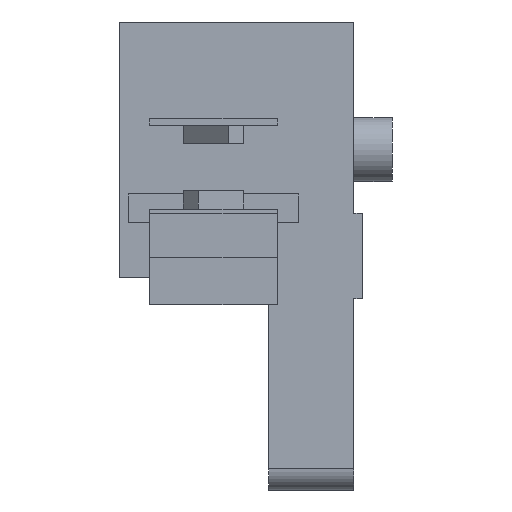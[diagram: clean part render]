
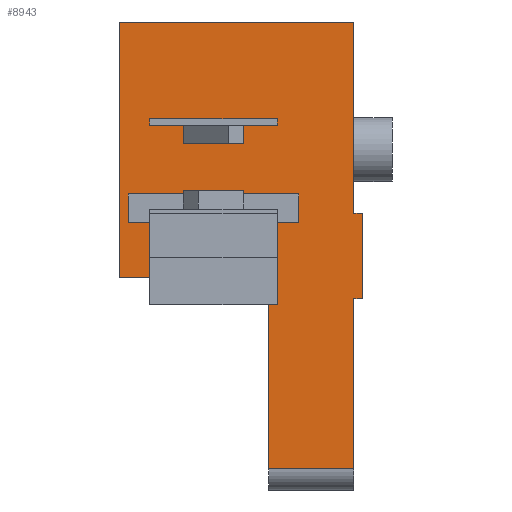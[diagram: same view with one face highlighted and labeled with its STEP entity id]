
A CAD part, left-side view. The second image highlights one B-rep face of the part: STEP entity #8943.
In plain terms, the highlighted planar face has unit normal (-1, 0, 0).
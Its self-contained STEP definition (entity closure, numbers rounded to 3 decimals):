
#21 = EDGE_CURVE ( 'NONE', #585, #7404, #12248, .T. ) ;
#195 = EDGE_CURVE ( 'NONE', #7404, #1716, #13042, .T. ) ;
#262 = DIRECTION ( 'NONE',  ( 0., 0., 1. ) ) ;
#280 = DIRECTION ( 'NONE',  ( 0., 1., 0. ) ) ;
#430 = CARTESIAN_POINT ( 'NONE',  ( -2.5, 2.2, 3.4 ) ) ;
#472 = EDGE_CURVE ( 'NONE', #585, #3745, #13751, .T. ) ;
#509 = LINE ( 'NONE', #430, #7930 ) ;
#585 = VERTEX_POINT ( 'NONE', #6290 ) ;
#710 = CARTESIAN_POINT ( 'NONE',  ( -2.5, -3.3, -7.6 ) ) ;
#1196 = LINE ( 'NONE', #5633, #10365 ) ;
#1448 = CARTESIAN_POINT ( 'NONE',  ( -2.5, 2.2, -7.1 ) ) ;
#1547 = EDGE_CURVE ( 'NONE', #6220, #1716, #5970, .T. ) ;
#1572 = VECTOR ( 'NONE', #280, 1000. ) ;
#1595 = CARTESIAN_POINT ( 'NONE',  ( -2.5, -3.3, -1.1 ) ) ;
#1680 = DIRECTION ( 'NONE',  ( 0., -1., 0. ) ) ;
#1716 = VERTEX_POINT ( 'NONE', #9873 ) ;
#2010 = CARTESIAN_POINT ( 'NONE',  ( -2.5, -1.3, -2.6 ) ) ;
#2230 = VERTEX_POINT ( 'NONE', #5360 ) ;
#2409 = ORIENTED_EDGE ( 'NONE', *, *, #21, .T. ) ;
#2647 = ORIENTED_EDGE ( 'NONE', *, *, #195, .T. ) ;
#2773 = VERTEX_POINT ( 'NONE', #13163 ) ;
#2930 = CARTESIAN_POINT ( 'NONE',  ( -2.5, -3.3, -7.1 ) ) ;
#3745 = VERTEX_POINT ( 'NONE', #2010 ) ;
#3806 = ORIENTED_EDGE ( 'NONE', *, *, #8936, .T. ) ;
#3860 = ORIENTED_EDGE ( 'NONE', *, *, #12158, .T. ) ;
#3968 = ORIENTED_EDGE ( 'NONE', *, *, #9512, .F. ) ;
#4563 = FACE_OUTER_BOUND ( 'NONE', #12487, .T. ) ;
#4717 = EDGE_CURVE ( 'NONE', #3745, #2230, #1196, .T. ) ;
#5360 = CARTESIAN_POINT ( 'NONE',  ( -2.5, 2.2, -2.6 ) ) ;
#5633 = CARTESIAN_POINT ( 'NONE',  ( -2.5, 2.2, -2.6 ) ) ;
#5747 = DIRECTION ( 'NONE',  ( 1., 0., 0. ) ) ;
#5749 = CARTESIAN_POINT ( 'NONE',  ( -2.5, 2.2, 3.4 ) ) ;
#5851 = DIRECTION ( 'NONE',  ( 0., 0., 1. ) ) ;
#5970 = LINE ( 'NONE', #10479, #11524 ) ;
#6008 = VERTEX_POINT ( 'NONE', #1595 ) ;
#6181 = DIRECTION ( 'NONE',  ( 0., 0., 1. ) ) ;
#6220 = VERTEX_POINT ( 'NONE', #8662 ) ;
#6290 = CARTESIAN_POINT ( 'NONE',  ( -2.5, -1.3, -7.1 ) ) ;
#6615 = VECTOR ( 'NONE', #8180, 1000. ) ;
#6914 = ORIENTED_EDGE ( 'NONE', *, *, #472, .F. ) ;
#6940 = CARTESIAN_POINT ( 'NONE',  ( -2.5, -3.5, -1.1 ) ) ;
#7252 = DIRECTION ( 'NONE',  ( 0., 0., 1. ) ) ;
#7404 = VERTEX_POINT ( 'NONE', #2930 ) ;
#7461 = VECTOR ( 'NONE', #262, 1000. ) ;
#7527 = ORIENTED_EDGE ( 'NONE', *, *, #1547, .F. ) ;
#7930 = VECTOR ( 'NONE', #1680, 1000. ) ;
#7966 = LINE ( 'NONE', #6940, #1572 ) ;
#8009 = DIRECTION ( 'NONE',  ( 0., 0., -1. ) ) ;
#8024 = CARTESIAN_POINT ( 'NONE',  ( -2.5, 2.2, -7.6 ) ) ;
#8076 = CARTESIAN_POINT ( 'NONE',  ( -2.5, -1.3, -7.6 ) ) ;
#8085 = LINE ( 'NONE', #9118, #8893 ) ;
#8180 = DIRECTION ( 'NONE',  ( 0., -1., 0. ) ) ;
#8315 = VECTOR ( 'NONE', #7252, 1000. ) ;
#8409 = AXIS2_PLACEMENT_3D ( 'NONE', #10336, #5747, #9303 ) ;
#8416 = DIRECTION ( 'NONE',  ( 0., 1., 0. ) ) ;
#8662 = CARTESIAN_POINT ( 'NONE',  ( -2.5, -3.5, -3.1 ) ) ;
#8680 = ORIENTED_EDGE ( 'NONE', *, *, #11401, .F. ) ;
#8893 = VECTOR ( 'NONE', #8009, 1000. ) ;
#8936 = EDGE_CURVE ( 'NONE', #10230, #6008, #7966, .T. ) ;
#8943 = ADVANCED_FACE ( 'NONE', ( #4563 ), #10476, .F. ) ;
#8980 = VECTOR ( 'NONE', #6181, 1000. ) ;
#9118 = CARTESIAN_POINT ( 'NONE',  ( -2.5, -3.5, -3.1 ) ) ;
#9303 = DIRECTION ( 'NONE',  ( 0., 0., -1. ) ) ;
#9512 = EDGE_CURVE ( 'NONE', #10230, #6220, #8085, .T. ) ;
#9873 = CARTESIAN_POINT ( 'NONE',  ( -2.5, -3.3, -3.1 ) ) ;
#9885 = VERTEX_POINT ( 'NONE', #5749 ) ;
#10230 = VERTEX_POINT ( 'NONE', #12776 ) ;
#10336 = CARTESIAN_POINT ( 'NONE',  ( -2.5, 2.2, -7.6 ) ) ;
#10365 = VECTOR ( 'NONE', #11391, 1000. ) ;
#10390 = LINE ( 'NONE', #8024, #7461 ) ;
#10476 = PLANE ( 'NONE',  #8409 ) ;
#10479 = CARTESIAN_POINT ( 'NONE',  ( -2.5, -3.5, -3.1 ) ) ;
#10910 = ORIENTED_EDGE ( 'NONE', *, *, #4717, .F. ) ;
#11187 = EDGE_CURVE ( 'NONE', #9885, #2773, #509, .T. ) ;
#11391 = DIRECTION ( 'NONE',  ( 0., 1., 0. ) ) ;
#11401 = EDGE_CURVE ( 'NONE', #2230, #9885, #10390, .T. ) ;
#11524 = VECTOR ( 'NONE', #8416, 1000. ) ;
#11656 = CARTESIAN_POINT ( 'NONE',  ( -2.5, -3.3, -7.6 ) ) ;
#12158 = EDGE_CURVE ( 'NONE', #6008, #2773, #13881, .T. ) ;
#12248 = LINE ( 'NONE', #1448, #6615 ) ;
#12487 = EDGE_LOOP ( 'NONE', ( #6914, #2409, #2647, #7527, #3968, #3806, #3860, #12874, #8680, #10910 ) ) ;
#12776 = CARTESIAN_POINT ( 'NONE',  ( -2.5, -3.5, -1.1 ) ) ;
#12874 = ORIENTED_EDGE ( 'NONE', *, *, #11187, .F. ) ;
#13042 = LINE ( 'NONE', #710, #8980 ) ;
#13163 = CARTESIAN_POINT ( 'NONE',  ( -2.5, -3.3, 3.4 ) ) ;
#13751 = LINE ( 'NONE', #8076, #13918 ) ;
#13881 = LINE ( 'NONE', #11656, #8315 ) ;
#13918 = VECTOR ( 'NONE', #5851, 1000. ) ;
